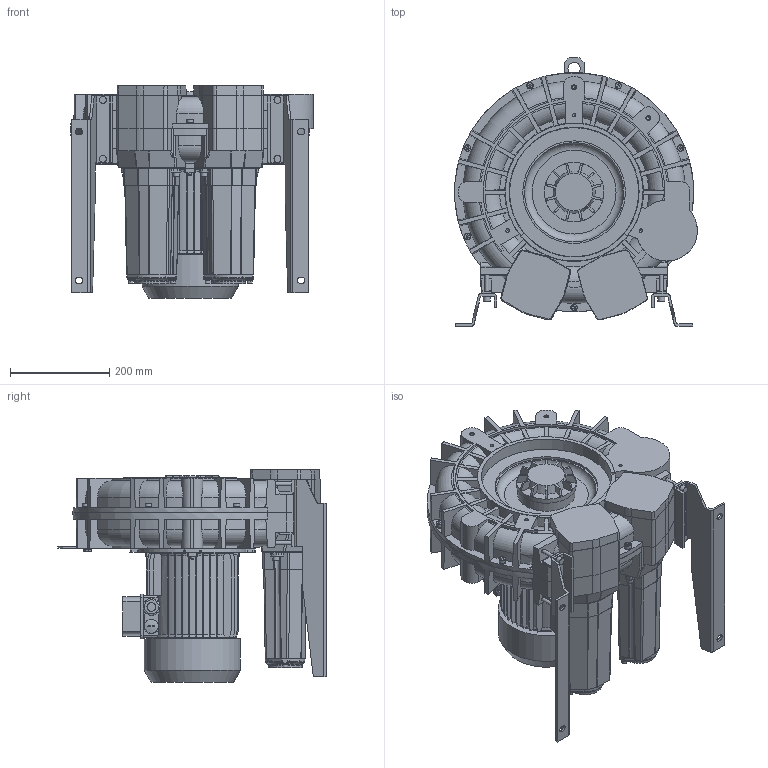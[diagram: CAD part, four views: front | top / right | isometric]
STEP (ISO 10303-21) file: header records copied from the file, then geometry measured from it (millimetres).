
FILE_DESCRIPTION (( 'STEP AP203' ), '1' );
FILE_NAME ('STP-L_e_08_MD_MOR_IE3WR_100_4.0kW-3_24-00.step', '2025-01-13T11:20:58', ( '' ), ( '' ), 'SwSTEP 2.0', 'SolidWorks 2024', '' );
FILE_SCHEMA (( 'CONFIG_CONTROL_DESIGN' ));
Length unit declared in the file: millimetre
Products named in the file (1): STP-L_e_08_MD_MOR_IE3WR_100_4.0kW-3_24-00
Bounding box: 489.5 x 541.5 x 428.5 mm (x, y, z)
Volume: 31265320.1 mm3; surface area: 2211111.6 mm2
Topology: 73 solids, 73 shells, 2973 faces, 7643 edges, 4827 vertices
Faces by surface type: plane 1430, cylinder 683, bspline 313, torus 272, cone 264, sphere 11
Full cylindrical faces by diameter (mm): 4 x8, 5 x8, 6 x8, 6.4 x8, 6.8 x12, 7 x4, 7.5 x4, 8 x20, 8.4 x16, 8.5 x5, 10 x16, 13 x27, 14 x4, 16 x5, 18 x2, 20 x1, 21.4 x1, 24 x4, 25 x4, 28 x1, 57 x2, 115 x2, 120 x1, 156 x2, 165 x1, 194 x1, 207 x3
Entity records: 98932 total; most frequent: CARTESIAN_POINT 31987, ORIENTED_EDGE 14154, DIRECTION 13168, EDGE_CURVE 7077, AXIS2_PLACEMENT_3D 4922, VERTEX_POINT 4687, EDGE_LOOP 3524, VECTOR 3324
